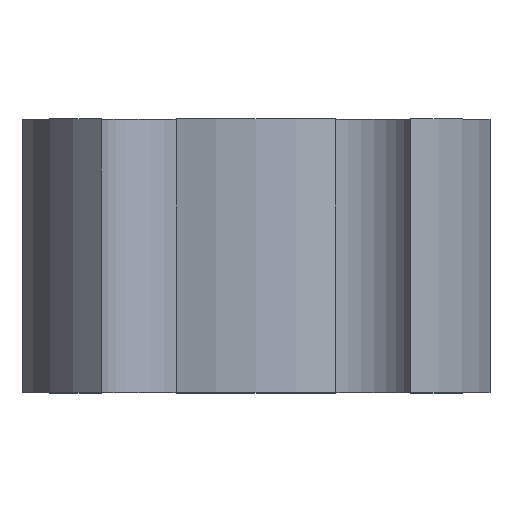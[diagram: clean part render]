
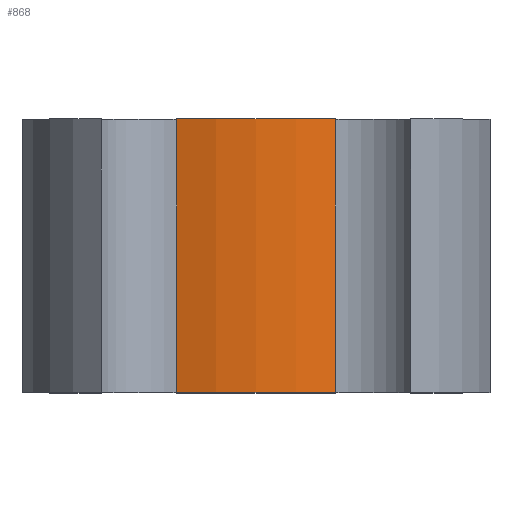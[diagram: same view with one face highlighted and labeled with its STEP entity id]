
A CAD part, top view. The second image highlights one B-rep face of the part: STEP entity #868.
In plain terms, the highlighted cylindrical face has radius 34.8 mm (diameter 69.6 mm), a partial arc.
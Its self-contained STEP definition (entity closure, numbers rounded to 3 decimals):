
#73 = PLANE('',#74);
#74 = AXIS2_PLACEMENT_3D('',#75,#76,#77);
#75 = CARTESIAN_POINT('',(0.,20.,0.));
#76 = DIRECTION('',(-0.,-1.,-0.));
#77 = DIRECTION('',(0.,0.,-1.));
#128 = PLANE('',#129);
#129 = AXIS2_PLACEMENT_3D('',#130,#131,#132);
#130 = CARTESIAN_POINT('',(0.,-20.,0.)
  );
#131 = DIRECTION('',(-0.,-1.,-0.));
#132 = DIRECTION('',(0.,0.,-1.));
#251 = VERTEX_POINT('',#252);
#252 = CARTESIAN_POINT('',(11.589,20.,32.814));
#271 = CYLINDRICAL_SURFACE('',#272,11.2);
#272 = AXIS2_PLACEMENT_3D('',#273,#274,#275);
#273 = CARTESIAN_POINT('',(12.5,0.,21.651));
#274 = DIRECTION('',(-0.,1.,-0.));
#275 = DIRECTION('',(1.,0.,0.));
#283 = EDGE_CURVE('',#251,#284,#286,.T.);
#284 = VERTEX_POINT('',#285);
#285 = CARTESIAN_POINT('',(-11.589,20.,32.814));
#286 = SURFACE_CURVE('',#287,(#292,#299),.PCURVE_S1.);
#287 = CIRCLE('',#288,34.8);
#288 = AXIS2_PLACEMENT_3D('',#289,#290,#291);
#289 = CARTESIAN_POINT('',(0.,20.,0.));
#290 = DIRECTION('',(0.,-1.,0.));
#291 = DIRECTION('',(1.,0.,0.));
#292 = PCURVE('',#73,#293);
#293 = DEFINITIONAL_REPRESENTATION('',(#294),#298);
#294 = CIRCLE('',#295,34.8);
#295 = AXIS2_PLACEMENT_2D('',#296,#297);
#296 = CARTESIAN_POINT('',(0.,0.));
#297 = DIRECTION('',(0.,1.));
#298 = ( GEOMETRIC_REPRESENTATION_CONTEXT(2) 
PARAMETRIC_REPRESENTATION_CONTEXT() REPRESENTATION_CONTEXT('2D SPACE',''
  ) );
#299 = PCURVE('',#300,#305);
#300 = CYLINDRICAL_SURFACE('',#301,34.8);
#301 = AXIS2_PLACEMENT_3D('',#302,#303,#304);
#302 = CARTESIAN_POINT('',(0.,0.,0.));
#303 = DIRECTION('',(-0.,1.,-0.));
#304 = DIRECTION('',(1.,0.,0.));
#305 = DEFINITIONAL_REPRESENTATION('',(#306),#310);
#306 = LINE('',#307,#308);
#307 = CARTESIAN_POINT('',(0.,20.));
#308 = VECTOR('',#309,1.);
#309 = DIRECTION('',(-1.,-0.));
#310 = ( GEOMETRIC_REPRESENTATION_CONTEXT(2) 
PARAMETRIC_REPRESENTATION_CONTEXT() REPRESENTATION_CONTEXT('2D SPACE',''
  ) );
#333 = CYLINDRICAL_SURFACE('',#334,11.2);
#334 = AXIS2_PLACEMENT_3D('',#335,#336,#337);
#335 = CARTESIAN_POINT('',(-12.5,0.,21.651));
#336 = DIRECTION('',(-0.,1.,-0.));
#337 = DIRECTION('',(1.,0.,0.));
#609 = VERTEX_POINT('',#610);
#610 = CARTESIAN_POINT('',(11.589,-20.,32.814));
#636 = EDGE_CURVE('',#609,#637,#639,.T.);
#637 = VERTEX_POINT('',#638);
#638 = CARTESIAN_POINT('',(-11.589,-20.,32.814));
#639 = SURFACE_CURVE('',#640,(#645,#652),.PCURVE_S1.);
#640 = CIRCLE('',#641,34.8);
#641 = AXIS2_PLACEMENT_3D('',#642,#643,#644);
#642 = CARTESIAN_POINT('',(0.,-20.,0.));
#643 = DIRECTION('',(0.,-1.,0.));
#644 = DIRECTION('',(1.,0.,0.));
#645 = PCURVE('',#128,#646);
#646 = DEFINITIONAL_REPRESENTATION('',(#647),#651);
#647 = CIRCLE('',#648,34.8);
#648 = AXIS2_PLACEMENT_2D('',#649,#650);
#649 = CARTESIAN_POINT('',(0.,0.));
#650 = DIRECTION('',(0.,1.));
#651 = ( GEOMETRIC_REPRESENTATION_CONTEXT(2) 
PARAMETRIC_REPRESENTATION_CONTEXT() REPRESENTATION_CONTEXT('2D SPACE',''
  ) );
#652 = PCURVE('',#300,#653);
#653 = DEFINITIONAL_REPRESENTATION('',(#654),#658);
#654 = LINE('',#655,#656);
#655 = CARTESIAN_POINT('',(-0.,-20.));
#656 = VECTOR('',#657,1.);
#657 = DIRECTION('',(-1.,0.));
#658 = ( GEOMETRIC_REPRESENTATION_CONTEXT(2) 
PARAMETRIC_REPRESENTATION_CONTEXT() REPRESENTATION_CONTEXT('2D SPACE',''
  ) );
#848 = EDGE_CURVE('',#609,#251,#849,.T.);
#849 = SURFACE_CURVE('',#850,(#854,#861),.PCURVE_S1.);
#850 = LINE('',#851,#852);
#851 = CARTESIAN_POINT('',(11.589,-20.,32.814));
#852 = VECTOR('',#853,1.);
#853 = DIRECTION('',(0.,1.,0.));
#854 = PCURVE('',#271,#855);
#855 = DEFINITIONAL_REPRESENTATION('',(#856),#860);
#856 = LINE('',#857,#858);
#857 = CARTESIAN_POINT('',(-1.652,-20.));
#858 = VECTOR('',#859,1.);
#859 = DIRECTION('',(-0.,1.));
#860 = ( GEOMETRIC_REPRESENTATION_CONTEXT(2) 
PARAMETRIC_REPRESENTATION_CONTEXT() REPRESENTATION_CONTEXT('2D SPACE',''
  ) );
#861 = PCURVE('',#300,#862);
#862 = DEFINITIONAL_REPRESENTATION('',(#863),#867);
#863 = LINE('',#864,#865);
#864 = CARTESIAN_POINT('',(-1.231,-20.));
#865 = VECTOR('',#866,1.);
#866 = DIRECTION('',(-0.,1.));
#867 = ( GEOMETRIC_REPRESENTATION_CONTEXT(2) 
PARAMETRIC_REPRESENTATION_CONTEXT() REPRESENTATION_CONTEXT('2D SPACE',''
  ) );
#868 = ADVANCED_FACE('',(#869),#300,.T.);
#869 = FACE_BOUND('',#870,.F.);
#870 = EDGE_LOOP('',(#871,#892,#893,#894));
#871 = ORIENTED_EDGE('',*,*,#872,.T.);
#872 = EDGE_CURVE('',#637,#284,#873,.T.);
#873 = SURFACE_CURVE('',#874,(#878,#885),.PCURVE_S1.);
#874 = LINE('',#875,#876);
#875 = CARTESIAN_POINT('',(-11.589,-20.,32.814));
#876 = VECTOR('',#877,1.);
#877 = DIRECTION('',(0.,1.,0.));
#878 = PCURVE('',#300,#879);
#879 = DEFINITIONAL_REPRESENTATION('',(#880),#884);
#880 = LINE('',#881,#882);
#881 = CARTESIAN_POINT('',(-1.91,-20.));
#882 = VECTOR('',#883,1.);
#883 = DIRECTION('',(-0.,1.));
#884 = ( GEOMETRIC_REPRESENTATION_CONTEXT(2) 
PARAMETRIC_REPRESENTATION_CONTEXT() REPRESENTATION_CONTEXT('2D SPACE',''
  ) );
#885 = PCURVE('',#333,#886);
#886 = DEFINITIONAL_REPRESENTATION('',(#887),#891);
#887 = LINE('',#888,#889);
#888 = CARTESIAN_POINT('',(-7.773,-20.));
#889 = VECTOR('',#890,1.);
#890 = DIRECTION('',(-0.,1.));
#891 = ( GEOMETRIC_REPRESENTATION_CONTEXT(2) 
PARAMETRIC_REPRESENTATION_CONTEXT() REPRESENTATION_CONTEXT('2D SPACE',''
  ) );
#892 = ORIENTED_EDGE('',*,*,#283,.F.);
#893 = ORIENTED_EDGE('',*,*,#848,.F.);
#894 = ORIENTED_EDGE('',*,*,#636,.T.);
